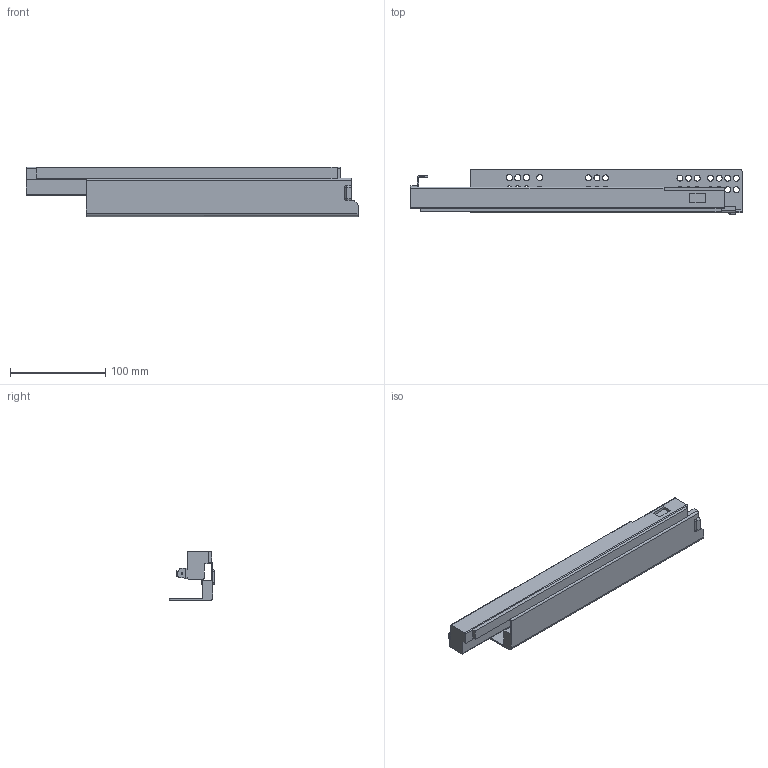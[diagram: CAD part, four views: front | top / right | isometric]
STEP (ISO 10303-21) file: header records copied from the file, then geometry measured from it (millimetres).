
FILE_DESCRIPTION (( 'STEP AP203' ), '1' );
FILE_NAME ('TS10350H-R-DTC3D-close.STEP', '2021-07-09T03:14:36', ( 'df' ), ( 'Microsoft' ), 'SwSTEP 2.0', 'SolidWorks 2018', '' );
FILE_SCHEMA (( 'CONFIG_CONTROL_DESIGN' ));
Length unit declared in the file: millimetre
Products named in the file (1): TS10350H-R-DTC3D-close
Bounding box: 348 x 48 x 51.73 mm (x, y, z)
Volume: 280096.7 mm3; surface area: 84915.1 mm2
Topology: 1 solids, 2 shells, 258 faces, 746 edges, 496 vertices
Faces by surface type: plane 110, cylinder 92, bspline 49, torus 7
Entity records: 14222 total; most frequent: CARTESIAN_POINT 7945, ORIENTED_EDGE 1488, DIRECTION 904, EDGE_CURVE 744, VERTEX_POINT 496, LINE 422, VECTOR 422, EDGE_LOOP 322
